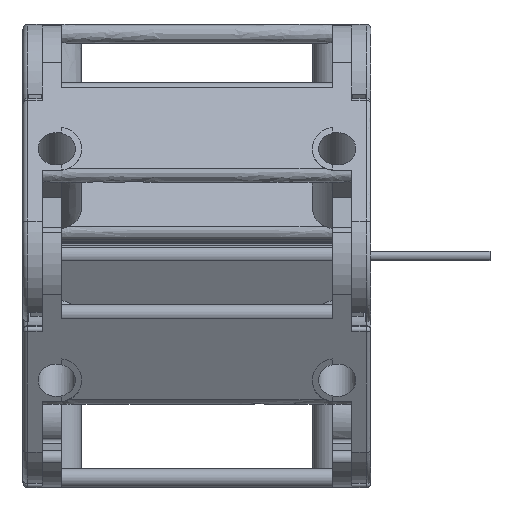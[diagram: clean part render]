
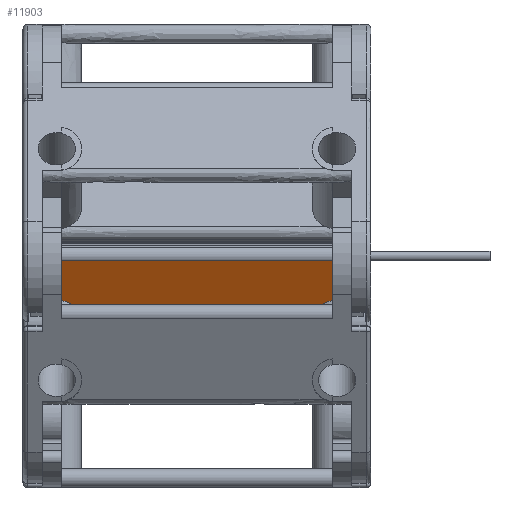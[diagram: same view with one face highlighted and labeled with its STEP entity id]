
A CAD part, front view. The second image highlights one B-rep face of the part: STEP entity #11903.
In plain terms, the highlighted free-form (B-spline) face has degree [1, 1] with [2, 2] control points.
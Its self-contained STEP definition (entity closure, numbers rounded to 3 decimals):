
#10075=CARTESIAN_POINT('',(0.,115.48,-184.348));
#10076=VERTEX_POINT('',#10075);
#10084=CARTESIAN_POINT('',(0.,110.493,-184.348));
#10085=VERTEX_POINT('',#10084);
#10086=CARTESIAN_POINT('',(0.,110.493,-184.348));
#10087=DIRECTION('',(0.,1.,0.));
#10088=VECTOR('',#10087,4.988);
#10089=LINE('',#10086,#10088);
#10090=EDGE_CURVE('',#10085,#10076,#10089,.T.);
#10301=CARTESIAN_POINT('',(-2.147,107.683,-184.348));
#10302=VERTEX_POINT('',#10301);
#10303=CARTESIAN_POINT('',(-2.147,108.018,-184.348));
#10304=VERTEX_POINT('',#10303);
#10305=CARTESIAN_POINT('',(-2.147,107.683,-184.348));
#10306=DIRECTION('',(0.,1.,0.));
#10307=VECTOR('',#10306,0.334);
#10308=LINE('',#10305,#10307);
#10309=EDGE_CURVE('',#10302,#10304,#10308,.T.);
#11590=CARTESIAN_POINT('',(-0.802,105.466,-184.348));
#11591=VERTEX_POINT('',#11590);
#11592=CARTESIAN_POINT('',(0.353,107.683,-184.348));
#11593=DIRECTION('',(0.,0.,-1.));
#11594=DIRECTION('',(-0.141,-0.99,0.));
#11595=AXIS2_PLACEMENT_3D('',#11592,#11593,#11594);
#11596=CIRCLE('',#11595,2.5);
#11597=EDGE_CURVE('',#11591,#10302,#11596,.T.);
#11684=CARTESIAN_POINT('',(0.353,108.018,-184.348));
#11685=DIRECTION('',(0.,0.,-1.));
#11686=DIRECTION('',(-0.141,0.99,0.));
#11687=AXIS2_PLACEMENT_3D('',#11684,#11685,#11686);
#11688=CIRCLE('',#11687,2.5);
#11689=EDGE_CURVE('',#10304,#10085,#11688,.T.);
#11824=CARTESIAN_POINT('',(-28.221,105.466,-184.348));
#11825=VERTEX_POINT('',#11824);
#11826=CARTESIAN_POINT('',(-0.802,105.466,-184.348));
#11827=DIRECTION('',(-1.0,0.0,0.0));
#11828=VECTOR('',#11827,27.419);
#11829=LINE('',#11826,#11828);
#11830=EDGE_CURVE('',#11591,#11825,#11829,.T.);
#11851=CARTESIAN_POINT('',(0.,115.48,-184.348));
#11852=CARTESIAN_POINT('',(-29.023,115.48,-184.348));
#11853=CARTESIAN_POINT('',(0.,105.466,-184.348));
#11854=CARTESIAN_POINT('',(-29.023,105.466,-184.348));
#11855=B_SPLINE_SURFACE_WITH_KNOTS('',1,1,((#11851,#11853),(#11852,#11854)),.UNSPECIFIED.,.F.,.F.,.U.,(2,2),(2,2),(0.0,29.023),(0.0,10.014),.UNSPECIFIED.);
#11856=CARTESIAN_POINT('',(-29.023,115.48,-184.348));
#11857=VERTEX_POINT('',#11856);
#11858=CARTESIAN_POINT('',(-29.023,115.48,-184.348));
#11859=DIRECTION('',(1.0,0.0,0.0));
#11860=VECTOR('',#11859,29.023);
#11861=LINE('',#11858,#11860);
#11862=EDGE_CURVE('',#11857,#10076,#11861,.T.);
#11863=ORIENTED_EDGE('',*,*,#11862,.F.);
#11864=CARTESIAN_POINT('',(-29.023,110.493,-184.348));
#11865=VERTEX_POINT('',#11864);
#11866=CARTESIAN_POINT('',(-29.023,110.493,-184.348));
#11867=DIRECTION('',(0.,1.,0.));
#11868=VECTOR('',#11867,4.988);
#11869=LINE('',#11866,#11868);
#11870=EDGE_CURVE('',#11865,#11857,#11869,.T.);
#11871=ORIENTED_EDGE('',*,*,#11870,.F.);
#11872=CARTESIAN_POINT('',(-26.876,108.018,-184.348));
#11873=VERTEX_POINT('',#11872);
#11874=CARTESIAN_POINT('',(-29.376,108.018,-184.348));
#11875=DIRECTION('',(0.,0.,1.));
#11876=DIRECTION('',(0.141,0.99,0.));
#11877=AXIS2_PLACEMENT_3D('',#11874,#11875,#11876);
#11878=CIRCLE('',#11877,2.5);
#11879=EDGE_CURVE('',#11873,#11865,#11878,.T.);
#11880=ORIENTED_EDGE('',*,*,#11879,.F.);
#11881=CARTESIAN_POINT('',(-26.876,107.683,-184.348));
#11882=VERTEX_POINT('',#11881);
#11883=CARTESIAN_POINT('',(-26.876,107.683,-184.348));
#11884=DIRECTION('',(0.0,1.,0.));
#11885=VECTOR('',#11884,0.334);
#11886=LINE('',#11883,#11885);
#11887=EDGE_CURVE('',#11882,#11873,#11886,.T.);
#11888=ORIENTED_EDGE('',*,*,#11887,.F.);
#11889=CARTESIAN_POINT('',(-29.376,107.683,-184.348));
#11890=DIRECTION('',(0.,0.,1.));
#11891=DIRECTION('',(0.141,-0.99,0.));
#11892=AXIS2_PLACEMENT_3D('',#11889,#11890,#11891);
#11893=CIRCLE('',#11892,2.5);
#11894=EDGE_CURVE('',#11825,#11882,#11893,.T.);
#11895=ORIENTED_EDGE('',*,*,#11894,.F.);
#11896=ORIENTED_EDGE('',*,*,#11830,.F.);
#11897=ORIENTED_EDGE('',*,*,#11597,.T.);
#11898=ORIENTED_EDGE('',*,*,#10309,.T.);
#11899=ORIENTED_EDGE('',*,*,#11689,.T.);
#11900=ORIENTED_EDGE('',*,*,#10090,.T.);
#11901=EDGE_LOOP('',(#11863,#11871,#11880,#11888,#11895,#11896,#11897,#11898,#11899,#11900));
#11902=FACE_OUTER_BOUND('',#11901,.T.);
#11903=ADVANCED_FACE('',(#11902),#11855,.T.);
